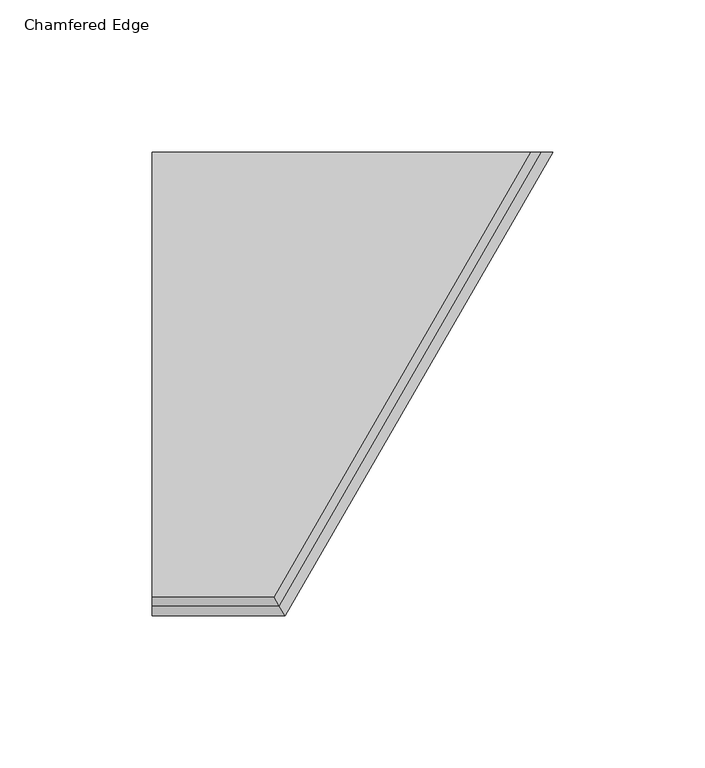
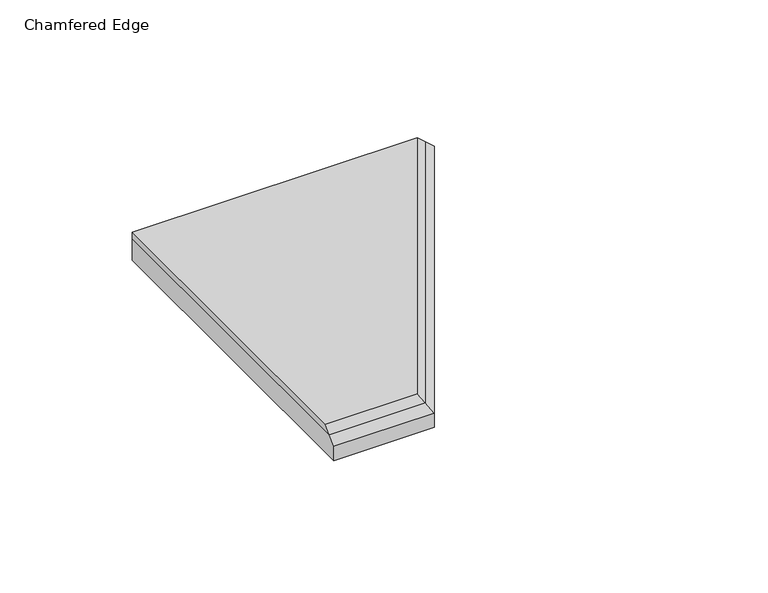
"""IFC4 building model written with IfcOpenShell, lengths in millimetres: proxy geometry, FilzFelt_Hex_Block : Chamfered Edge."""

from ifc_helpers import new_model, si_unit, origin, place, context, project, spatial, faceted_brep, source, transform, mapped, element, save


def chamfered_edge_5073ca42(model_context):
    return source(origin(), model_context, "Body", "Brep", [
        faceted_brep([(172.081052, 0.0, 10.0210937), (86.040526, -149.0265625, 10.0210937), (44.2024582, -149.0265625, 10.0210937), (44.2024582, 0.0, 10.0210937), (44.2024582, -146.05, 12.9976563), (84.3220068, -146.05, 12.9976563), (168.6440136, 0.0, 12.9976563), (44.2024582, 0.0, 12.9976563)], [[[0, 1, 2, 3]], [[4, 5, 6, 7]], [[1, 0, 6, 5]], [[5, 4, 2, 1]], [[3, 2, 4, 7]], [[7, 6, 0, 3]]]),
        faceted_brep([(87.988181, -152.4, 0.0), (44.2024582, -152.4, 0.0), (44.2024582, 0.0, 0.0), (175.976362, 0.0, 0.0), (44.2024582, -149.0265625, 10.0210937), (86.040526, -149.0265625, 10.0210937), (172.081052, 0.0, 10.0210937), (44.2024582, 0.0, 10.0210937), (87.988181, -152.4, 6.6476563), (44.2024582, -152.4, 6.6476563), (175.976362, 0.0, 6.6476563)], [[[0, 1, 2, 3]], [[4, 5, 6, 7]], [[0, 8, 9, 1]], [[3, 10, 8, 0]], [[8, 10, 6, 5]], [[5, 4, 9, 8]], [[1, 9, 4, 7, 2]], [[2, 7, 6, 10, 3]]]),
    ])


if __name__ == "__main__":
    model = new_model("IFC4")
    model_context = context("Model", 3, world=origin())
    ifc_project = project(units=[si_unit("LENGTHUNIT", "METRE", prefix="MILLI")], contexts=[model_context])
    site = spatial("IfcSite", under=ifc_project)
    building = spatial("IfcBuilding", under=site)
    placement = place(None, origin())
    chamfered_edge_shape = chamfered_edge_5073ca42(model_context)
    element("IfcBuildingElementProxy", 1, Name="FilzFelt_Hex_Block : Chamfered Edge", ObjectType="FilzFelt_Hex_Block : Chamfered Edge", at=placement, inside=building, context=model_context, shape_type="MappedRepresentation", body=[
        mapped(chamfered_edge_shape, transform((0.0, 0.0, 0.0), x_axis=(1.0, 0.0, 0.0), y_axis=(0.0, 1.0, 0.0), z_axis=(0.0, 0.0, 1.0))),
    ])
    save(model, "model.ifc")
